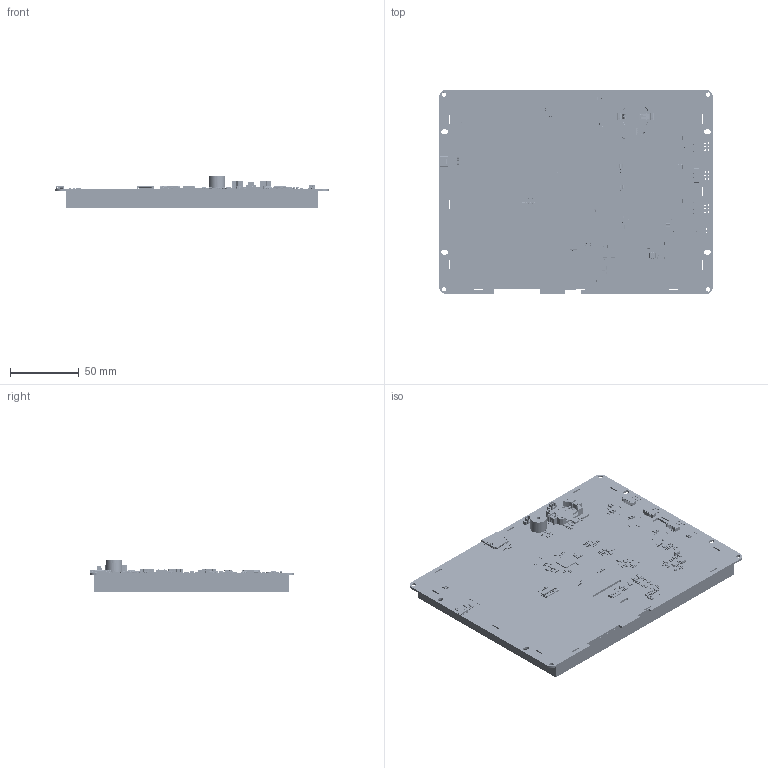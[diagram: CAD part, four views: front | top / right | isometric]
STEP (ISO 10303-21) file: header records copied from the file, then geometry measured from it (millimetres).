
FILE_DESCRIPTION(/* description */ ('Open CASCADE Model'),/* implementation_level */ '2;1');
FILE_NAME(/* name */ 'P80600-080T-L0101.stp',/* time_stamp */ '2025-11-03T10:44:32-03:00',/* author */ ('Reservaa'),/* organization */ ('Open CASCADE'),/* preprocessor_version */ 'ST-DEVELOPER v20',/* originating_system */ 'Autodesk Inventor 2024',/* authorisation */ 'Unknown');
FILE_SCHEMA (('AUTOMOTIVE_DESIGN { 1 0 10303 214 3 1 1 }'));
Products named in the file (315): PCB; Board; Open CASCADE STEP translator 7.5 6.1.1; R96; R95; R94; C92; USB1; USB20_MICRO_SMD_W; Open CASCADE STEP translator 7.5 6.6.1.1; Open CASCADE STEP translator 7.5 6.6.1.2; Open CASCADE STEP translator 7.5 6.6.1.3; Open CASCADE STEP translator 7.5 6.6.1.4; Open CASCADE STEP translator 7.5 6.6.1.5; Open CASCADE STEP translator 7.5 6.6.1.6; Open CASCADE STEP translator 7.5 6.6.1.7; CN2; R87; R86; R68; R67; R66; R65; R64; R63; R37; R36; D39; D38; BUZZER1; Buzzi_1209; U10; User Library-CSYTAL-MC146; R93; R92; R91; R90; R89; R88; D37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
Assembly tree (552 placements, depth 4):
  PCB
    Board
      Open CASCADE STEP translator 7.5 6.1.1
    R96
      0603R
    R95
      0603R
    R94
      0603R
    C92
      Capacitor 0603 SMD
        User Library-cap0603_cap0603_body_??
        User Library-cap0603_pad_0603_??
    USB1
      USB20_MICRO_SMD_W
        Open CASCADE STEP translator 7.5 6.6.1.1
        Open CASCADE STEP translator 7.5 6.6.1.2
        Open CASCADE STEP translator 7.5 6.6.1.3
        Open CASCADE STEP translator 7.5 6.6.1.4
        Open CASCADE STEP translator 7.5 6.6.1.5
        Open CASCADE STEP translator 7.5 6.6.1.6
        Open CASCADE STEP translator 7.5 6.6.1.7
    CN2
      CONN-SMD_2P-P1.25_HDGC_1.25K-BH-2PB
        Open CASCADE STEP translator 7.5 6.7.1.1
        Open CASCADE STEP translator 7.5 6.7.1.2
        Open CASCADE STEP translator 7.5 6.7.1.3
    R87
      0603R
    R86
      0603R
    R68
      0603R
    R67
      0603R
    R66
      0603R
    R65
      0603R
    R64
      0603R
    R63
      0603R
    R37
      0603R
    R36
      0603R
    D39
      User Library-SOD-123_DiodesInc
    D38
      User Library-SOD-123_DiodesInc
    BUZZER1
      Buzzi_1209
    U10
      User Library-CSYTAL-MC146
    R93
      0603R
    R92
      0603R
    R91
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Bounding box: 199.5 x 148.8 x 23.56 mm (x, y, z)
Volume: 367049.9 mm3; surface area: 182834.9 mm2
Topology: 711 solids, 711 shells, 23814 faces, 62032 edges, 39100 vertices
Faces by surface type: plane 14754, cylinder 4957, bspline 2611, sphere 966, torus 488, cone 38
Full cylindrical faces by diameter (mm): 0.17 x24, 0.3 x2, 0.6 x4, 0.65 x2, 0.8 x3, 1 x3, 1.1 x25, 1.2 x2, 1.5 x7, 1.8 x1, 2 x5, 2.5 x1, 2.83 x4, 3.2 x4, 7.517 x1, 12 x1
Entity records: 313372 total; most frequent: CARTESIAN_POINT 86293, ORIENTED_EDGE 46228, DIRECTION 41879, EDGE_CURVE 23114, LINE 18215, VECTOR 18215, VERTEX_POINT 14967, AXIS2_PLACEMENT_3D 11832
